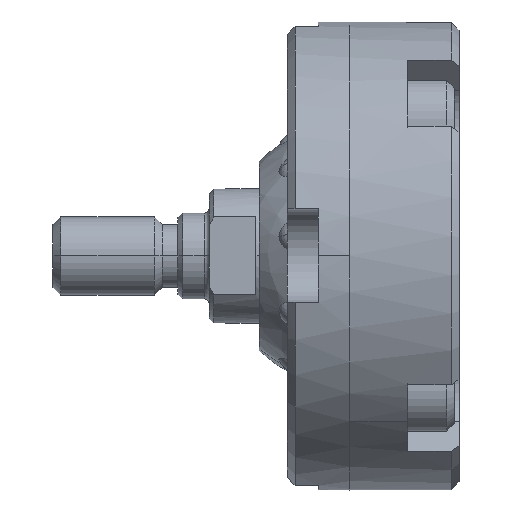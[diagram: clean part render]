
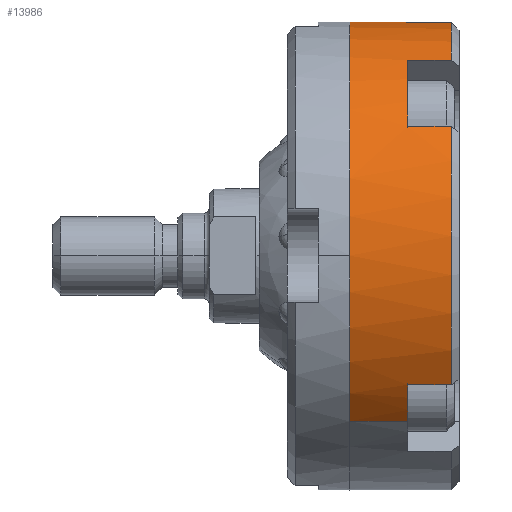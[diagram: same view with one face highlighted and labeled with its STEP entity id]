
A CAD part, top view. The second image highlights one B-rep face of the part: STEP entity #13986.
In plain terms, the highlighted cylindrical face has radius 15 mm (diameter 30 mm), a partial arc.
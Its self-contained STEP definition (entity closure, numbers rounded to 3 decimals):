
#11 = CARTESIAN_POINT ( 'NONE',  ( 6.5, -8.271, 12.514 ) ) ;
#102 = DIRECTION ( 'NONE',  ( 0., -0.707, 0.707 ) ) ;
#177 = VERTEX_POINT ( 'NONE', #7288 ) ;
#181 = CARTESIAN_POINT ( 'NONE',  ( 0., -8.271, 12.514 ) ) ;
#249 = DIRECTION ( 'NONE',  ( 1., 0., 0. ) ) ;
#412 = AXIS2_PLACEMENT_3D ( 'NONE', #10481, #13637, #4746 ) ;
#481 = FACE_OUTER_BOUND ( 'NONE', #3398, .T. ) ;
#503 = VERTEX_POINT ( 'NONE', #12816 ) ;
#607 = CARTESIAN_POINT ( 'NONE',  ( 0., 0., 15. ) ) ;
#616 = EDGE_CURVE ( 'NONE', #503, #11491, #1883, .T. ) ;
#870 = CARTESIAN_POINT ( 'NONE',  ( 0., 8.271, 12.514 ) ) ;
#935 = CARTESIAN_POINT ( 'NONE',  ( 3.7, 0., 0. ) ) ;
#1297 = EDGE_CURVE ( 'NONE', #9037, #7390, #5798, .T. ) ;
#1412 = DIRECTION ( 'NONE',  ( -1., 0., 0. ) ) ;
#1415 = ORIENTED_EDGE ( 'NONE', *, *, #1596, .T. ) ;
#1595 = VERTEX_POINT ( 'NONE', #8356 ) ;
#1596 = EDGE_CURVE ( 'NONE', #2746, #11491, #13944, .T. ) ;
#1627 = ORIENTED_EDGE ( 'NONE', *, *, #13979, .T. ) ;
#1764 = DIRECTION ( 'NONE',  ( 0., -0.707, 0.707 ) ) ;
#1883 = CIRCLE ( 'NONE', #3726, 15. ) ;
#1901 = VECTOR ( 'NONE', #7407, 1000. ) ;
#1969 = CARTESIAN_POINT ( 'NONE',  ( 6.5, 0., 0. ) ) ;
#2147 = EDGE_CURVE ( 'NONE', #11637, #9037, #9893, .T. ) ;
#2283 = DIRECTION ( 'NONE',  ( -1., 0., 0. ) ) ;
#2482 = LINE ( 'NONE', #3563, #7782 ) ;
#2746 = VERTEX_POINT ( 'NONE', #10024 ) ;
#2891 = VERTEX_POINT ( 'NONE', #11158 ) ;
#3012 = ORIENTED_EDGE ( 'NONE', *, *, #8823, .T. ) ;
#3278 = CARTESIAN_POINT ( 'NONE',  ( 3.7, 10.607, -10.607 ) ) ;
#3373 = CARTESIAN_POINT ( 'NONE',  ( 0., 0., 0. ) ) ;
#3398 = EDGE_LOOP ( 'NONE', ( #13534, #3482, #10570, #9693, #12782, #11531, #7704, #12818, #1415, #10217, #1627, #6805, #3012 ) ) ;
#3460 = DIRECTION ( 'NONE',  ( 0., 0.707, -0.707 ) ) ;
#3482 = ORIENTED_EDGE ( 'NONE', *, *, #9024, .T. ) ;
#3563 = CARTESIAN_POINT ( 'NONE',  ( 0., 12.514, 8.271 ) ) ;
#3636 = VERTEX_POINT ( 'NONE', #7047 ) ;
#3726 = AXIS2_PLACEMENT_3D ( 'NONE', #10587, #8516, #5126 ) ;
#3756 = CARTESIAN_POINT ( 'NONE',  ( 0., -10.607, 10.607 ) ) ;
#3991 = VECTOR ( 'NONE', #13467, 1000. ) ;
#4691 = DIRECTION ( 'NONE',  ( 1., 0., 0. ) ) ;
#4746 = DIRECTION ( 'NONE',  ( 0., -0.707, 0.707 ) ) ;
#4969 = AXIS2_PLACEMENT_3D ( 'NONE', #935, #9699, #14075 ) ;
#5126 = DIRECTION ( 'NONE',  ( 0., 0.707, -0.707 ) ) ;
#5221 = CIRCLE ( 'NONE', #412, 15. ) ;
#5602 = DIRECTION ( 'NONE',  ( 0., -0.707, 0.707 ) ) ;
#5651 = CARTESIAN_POINT ( 'NONE',  ( 0., -10.607, 10.607 ) ) ;
#5766 = CARTESIAN_POINT ( 'NONE',  ( 3.7, 0., 0. ) ) ;
#5798 = CIRCLE ( 'NONE', #12436, 15. ) ;
#5947 = DIRECTION ( 'NONE',  ( 1., 0., 0. ) ) ;
#6178 = AXIS2_PLACEMENT_3D ( 'NONE', #1969, #7219, #1764 ) ;
#6328 = VECTOR ( 'NONE', #249, 1000. ) ;
#6370 = VERTEX_POINT ( 'NONE', #12032 ) ;
#6635 = LINE ( 'NONE', #7652, #12041 ) ;
#6805 = ORIENTED_EDGE ( 'NONE', *, *, #12567, .T. ) ;
#7047 = CARTESIAN_POINT ( 'NONE',  ( 6.5, 12.514, -8.271 ) ) ;
#7219 = DIRECTION ( 'NONE',  ( -1., 0., 0. ) ) ;
#7288 = CARTESIAN_POINT ( 'NONE',  ( 3.7, 12.514, -8.271 ) ) ;
#7390 = VERTEX_POINT ( 'NONE', #607 ) ;
#7407 = DIRECTION ( 'NONE',  ( -1., 0., 0. ) ) ;
#7652 = CARTESIAN_POINT ( 'NONE',  ( 0., 12.514, -8.271 ) ) ;
#7663 = EDGE_CURVE ( 'NONE', #13162, #177, #10439, .T. ) ;
#7704 = ORIENTED_EDGE ( 'NONE', *, *, #9000, .T. ) ;
#7782 = VECTOR ( 'NONE', #5947, 1000. ) ;
#7849 = DIRECTION ( 'NONE',  ( -1., 0., 0. ) ) ;
#8170 = DIRECTION ( 'NONE',  ( 0., -0.707, 0.707 ) ) ;
#8245 = CYLINDRICAL_SURFACE ( 'NONE', #10077, 15. ) ;
#8356 = CARTESIAN_POINT ( 'NONE',  ( 3.7, -8.271, 12.514 ) ) ;
#8516 = DIRECTION ( 'NONE',  ( 1., 0., 0. ) ) ;
#8823 = EDGE_CURVE ( 'NONE', #3636, #177, #6635, .T. ) ;
#9000 = EDGE_CURVE ( 'NONE', #1595, #10315, #9154, .T. ) ;
#9024 = EDGE_CURVE ( 'NONE', #13162, #6370, #10303, .T. ) ;
#9037 = VERTEX_POINT ( 'NONE', #3756 ) ;
#9098 = AXIS2_PLACEMENT_3D ( 'NONE', #3373, #2283, #5602 ) ;
#9154 = LINE ( 'NONE', #181, #6328 ) ;
#9246 = CARTESIAN_POINT ( 'NONE',  ( 0., 0., 0. ) ) ;
#9593 = EDGE_CURVE ( 'NONE', #1595, #11637, #11150, .T. ) ;
#9693 = ORIENTED_EDGE ( 'NONE', *, *, #1297, .F. ) ;
#9699 = DIRECTION ( 'NONE',  ( 1., 0., 0. ) ) ;
#9806 = CARTESIAN_POINT ( 'NONE',  ( 0., 0., 0. ) ) ;
#9889 = CARTESIAN_POINT ( 'NONE',  ( 3.7, -10.607, 10.607 ) ) ;
#9893 = LINE ( 'NONE', #5651, #3991 ) ;
#10024 = CARTESIAN_POINT ( 'NONE',  ( 6.5, 8.271, 12.514 ) ) ;
#10077 = AXIS2_PLACEMENT_3D ( 'NONE', #9246, #1412, #8170 ) ;
#10217 = ORIENTED_EDGE ( 'NONE', *, *, #616, .F. ) ;
#10303 = LINE ( 'NONE', #12506, #13897 ) ;
#10315 = VERTEX_POINT ( 'NONE', #11 ) ;
#10401 = EDGE_CURVE ( 'NONE', #7390, #6370, #13917, .T. ) ;
#10439 = CIRCLE ( 'NONE', #12955, 15. ) ;
#10481 = CARTESIAN_POINT ( 'NONE',  ( 6.5, 0., 0. ) ) ;
#10570 = ORIENTED_EDGE ( 'NONE', *, *, #10401, .F. ) ;
#10587 = CARTESIAN_POINT ( 'NONE',  ( 3.7, 0., 0. ) ) ;
#10757 = CIRCLE ( 'NONE', #6178, 15. ) ;
#11150 = CIRCLE ( 'NONE', #4969, 15. ) ;
#11158 = CARTESIAN_POINT ( 'NONE',  ( 6.5, 12.514, 8.271 ) ) ;
#11491 = VERTEX_POINT ( 'NONE', #13764 ) ;
#11531 = ORIENTED_EDGE ( 'NONE', *, *, #9593, .F. ) ;
#11637 = VERTEX_POINT ( 'NONE', #9889 ) ;
#12032 = CARTESIAN_POINT ( 'NONE',  ( 0., 10.607, -10.607 ) ) ;
#12041 = VECTOR ( 'NONE', #14038, 1000. ) ;
#12436 = AXIS2_PLACEMENT_3D ( 'NONE', #9806, #7849, #102 ) ;
#12506 = CARTESIAN_POINT ( 'NONE',  ( 0., 10.607, -10.607 ) ) ;
#12567 = EDGE_CURVE ( 'NONE', #2891, #3636, #5221, .T. ) ;
#12782 = ORIENTED_EDGE ( 'NONE', *, *, #2147, .F. ) ;
#12816 = CARTESIAN_POINT ( 'NONE',  ( 3.7, 12.514, 8.271 ) ) ;
#12818 = ORIENTED_EDGE ( 'NONE', *, *, #14155, .T. ) ;
#12955 = AXIS2_PLACEMENT_3D ( 'NONE', #5766, #4691, #3460 ) ;
#13162 = VERTEX_POINT ( 'NONE', #3278 ) ;
#13467 = DIRECTION ( 'NONE',  ( -1., 0., 0. ) ) ;
#13534 = ORIENTED_EDGE ( 'NONE', *, *, #7663, .F. ) ;
#13590 = DIRECTION ( 'NONE',  ( -1., 0., 0. ) ) ;
#13637 = DIRECTION ( 'NONE',  ( -1., 0., 0. ) ) ;
#13764 = CARTESIAN_POINT ( 'NONE',  ( 3.7, 8.271, 12.514 ) ) ;
#13897 = VECTOR ( 'NONE', #13590, 1000. ) ;
#13917 = CIRCLE ( 'NONE', #9098, 15. ) ;
#13944 = LINE ( 'NONE', #870, #1901 ) ;
#13979 = EDGE_CURVE ( 'NONE', #503, #2891, #2482, .T. ) ;
#13986 = ADVANCED_FACE ( 'NONE', ( #481 ), #8245, .T. ) ;
#14038 = DIRECTION ( 'NONE',  ( -1., 0., 0. ) ) ;
#14075 = DIRECTION ( 'NONE',  ( 0., 0.707, -0.707 ) ) ;
#14155 = EDGE_CURVE ( 'NONE', #10315, #2746, #10757, .T. ) ;
